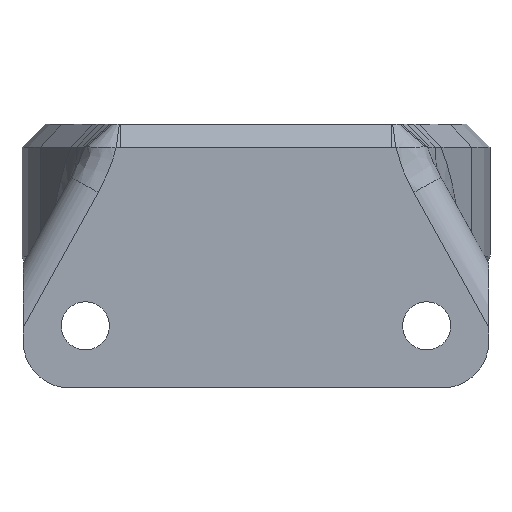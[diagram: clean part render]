
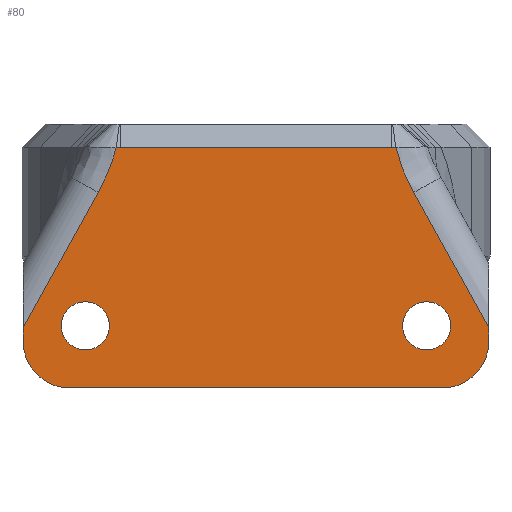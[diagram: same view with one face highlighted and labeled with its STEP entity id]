
A CAD part, front view. The second image highlights one B-rep face of the part: STEP entity #80.
In plain terms, the highlighted planar face has unit normal (0, -1, 0).
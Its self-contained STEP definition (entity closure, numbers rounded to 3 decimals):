
#80=ADVANCED_FACE('',(#483,#485,#487),#489,.T.);
#483=FACE_BOUND('',#484,.T.);
#484=EDGE_LOOP('',(#1257,#1258,#1259,#1260,#1261,#1262,#1263,#1264,#1265,#1266,#1267,
#1268));
#485=FACE_BOUND('',#486,.T.);
#486=EDGE_LOOP('',(#1269));
#487=FACE_BOUND('',#488,.T.);
#488=EDGE_LOOP('',(#1270));
#489=PLANE('',#490);
#490=AXIS2_PLACEMENT_3D('',#491,#492,#493);
#491=CARTESIAN_POINT('',(10.,-15.1,9.));
#492=DIRECTION('',(0.,-1.,0.));
#493=DIRECTION('',(-1.,0.,0.));
#1257=ORIENTED_EDGE('',*,*,#1522,.F.);
#1258=ORIENTED_EDGE('',*,*,#1524,.F.);
#1259=ORIENTED_EDGE('',*,*,#1525,.F.);
#1260=ORIENTED_EDGE('',*,*,#1485,.F.);
#1261=ORIENTED_EDGE('',*,*,#1490,.F.);
#1262=ORIENTED_EDGE('',*,*,#1526,.F.);
#1263=ORIENTED_EDGE('',*,*,#1527,.F.);
#1264=ORIENTED_EDGE('',*,*,#1528,.F.);
#1265=ORIENTED_EDGE('',*,*,#1529,.F.);
#1266=ORIENTED_EDGE('',*,*,#1530,.F.);
#1267=ORIENTED_EDGE('',*,*,#1531,.F.);
#1268=ORIENTED_EDGE('',*,*,#1532,.T.);
#1269=ORIENTED_EDGE('',*,*,#1533,.T.);
#1270=ORIENTED_EDGE('',*,*,#1534,.T.);
#1485=EDGE_CURVE('',#1670,#1672,#1673,.T.);
#1490=EDGE_CURVE('',#1679,#1670,#1681,.T.);
#1522=EDGE_CURVE('',#1731,#1733,#1734,.T.);
#1524=EDGE_CURVE('',#1736,#1731,#1737,.T.);
#1525=EDGE_CURVE('',#1672,#1736,#1738,.T.);
#1526=EDGE_CURVE('',#1739,#1679,#1740,.T.);
#1527=EDGE_CURVE('',#1741,#1739,#1742,.T.);
#1528=EDGE_CURVE('',#1743,#1741,#1744,.T.);
#1529=EDGE_CURVE('',#1745,#1743,#1746,.T.);
#1530=EDGE_CURVE('',#1747,#1745,#1748,.T.);
#1531=EDGE_CURVE('',#1749,#1747,#1750,.T.);
#1532=EDGE_CURVE('',#1749,#1733,#1751,.T.);
#1533=EDGE_CURVE('',#1752,#1752,#1753,.T.);
#1534=EDGE_CURVE('',#1754,#1754,#1755,.T.);
#1670=VERTEX_POINT('',#2445);
#1672=VERTEX_POINT('',#2450);
#1673=LINE('',#2451,#2452);
#1679=VERTEX_POINT('',#2465);
#1681=LINE('',#2470,#2471);
#1731=VERTEX_POINT('',#2692);
#1733=VERTEX_POINT('',#2696);
#1734=CIRCLE('',#2697,3.);
#1736=VERTEX_POINT('',#2704);
#1737=LINE('',#2705,#2706);
#1738=CIRCLE('',#2708,3.);
#1739=VERTEX_POINT('',#2712);
#1740=B_SPLINE_CURVE_WITH_KNOTS('',3,
(#2713,#2714,#2715,#2716,#2717,#2718,#2719,#2720,#2721,#2722),
.UNSPECIFIED.,.F.,.F.,
(4,2,2,2,4),
(0.,0.299,0.59,0.876,1.),
.UNSPECIFIED.);
#1741=VERTEX_POINT('',#2723);
#1742=B_SPLINE_CURVE_WITH_KNOTS('',3,
(#2724,#2725,#2726,#2727,#2728,#2729),
.UNSPECIFIED.,.F.,.F.,
(4,2,4),
(0.,0.5,1.),
.UNSPECIFIED.);
#1743=VERTEX_POINT('',#2730);
#1744=LINE('',#2731,#2732);
#1745=VERTEX_POINT('',#2734);
#1746=B_SPLINE_CURVE_WITH_KNOTS('',3,
(#2735,#2736,#2737,#2738,#2739,#2740,#2741,#2742),
.UNSPECIFIED.,.F.,.F.,
(4,1,1,1,1,4),
(0.,0.25,0.5,0.663,0.75,1.),
.UNSPECIFIED.);
#1747=VERTEX_POINT('',#2743);
#1748=B_SPLINE_CURVE_WITH_KNOTS('',3,
(#2744,#2745,#2746,#2747,#2748,#2749,#2750,#2751,#2752,#2753),
.UNSPECIFIED.,.F.,.F.,
(4,2,2,2,4),
(0.,0.282,0.566,0.855,1.),
.UNSPECIFIED.);
#1749=VERTEX_POINT('',#2754);
#1750=LINE('',#2755,#2756);
#1751=LINE('',#2758,#2759);
#1752=VERTEX_POINT('',#2761);
#1753=CIRCLE('',#2762,1.55);
#1754=VERTEX_POINT('',#2766);
#1755=CIRCLE('',#2767,1.55);
#2445=CARTESIAN_POINT('',(15.,-15.1,-4.118));
#2450=CARTESIAN_POINT('',(15.,-15.1,-5.));
#2451=CARTESIAN_POINT('',(15.,-15.1,-4.118));
#2452=VECTOR('',#2453,1.);
#2453=DIRECTION('',(0.,0.,-1.));
#2465=CARTESIAN_POINT('',(10.159,-15.1,4.595));
#2470=CARTESIAN_POINT('',(10.159,-15.1,4.595));
#2471=VECTOR('',#2472,1.);
#2472=DIRECTION('',(0.486,0.,-0.874));
#2692=CARTESIAN_POINT('',(-12.,-15.1,-8.));
#2696=CARTESIAN_POINT('',(-15.,-15.1,-5.));
#2697=AXIS2_PLACEMENT_3D('',#2698,#2699,#2700);
#2698=CARTESIAN_POINT('',(-12.,-15.1,-5.));
#2699=DIRECTION('',(0.,1.,0.));
#2700=DIRECTION('',(0.,0.,-1.));
#2704=CARTESIAN_POINT('',(12.,-15.1,-8.));
#2705=CARTESIAN_POINT('',(12.,-15.1,-8.));
#2706=VECTOR('',#2707,1.);
#2707=DIRECTION('',(-1.,0.,0.));
#2708=AXIS2_PLACEMENT_3D('',#2709,#2710,#2711);
#2709=CARTESIAN_POINT('',(12.,-15.1,-5.));
#2710=DIRECTION('',(0.,1.,0.));
#2711=DIRECTION('',(1.,0.,0.));
#2712=CARTESIAN_POINT('',(9.004,-15.1,7.5));
#2713=CARTESIAN_POINT('',(9.004,-15.1,7.5));
#2714=CARTESIAN_POINT('',(9.086,-15.1,7.202));
#2715=CARTESIAN_POINT('',(9.167,-15.1,6.905));
#2716=CARTESIAN_POINT('',(9.363,-15.1,6.324));
#2717=CARTESIAN_POINT('',(9.472,-15.1,6.039));
#2718=CARTESIAN_POINT('',(9.708,-15.1,5.482));
#2719=CARTESIAN_POINT('',(9.836,-15.1,5.209));
#2720=CARTESIAN_POINT('',(10.034,-15.1,4.825));
#2721=CARTESIAN_POINT('',(10.097,-15.1,4.71));
#2722=CARTESIAN_POINT('',(10.159,-15.1,4.595));
#2723=CARTESIAN_POINT('',(8.734,-15.1,7.5));
#2724=CARTESIAN_POINT('',(8.734,-15.1,7.5));
#2725=CARTESIAN_POINT('',(8.779,-15.1,7.5));
#2726=CARTESIAN_POINT('',(8.824,-15.1,7.5));
#2727=CARTESIAN_POINT('',(8.914,-15.1,7.5));
#2728=CARTESIAN_POINT('',(8.959,-15.1,7.5));
#2729=CARTESIAN_POINT('',(9.004,-15.1,7.5));
#2730=CARTESIAN_POINT('',(-8.734,-15.1,7.5));
#2731=CARTESIAN_POINT('',(-8.734,-15.1,7.5));
#2732=VECTOR('',#2733,1.);
#2733=DIRECTION('',(1.,0.,0.));
#2734=CARTESIAN_POINT('',(-9.004,-15.1,7.5));
#2735=CARTESIAN_POINT('',(-9.004,-15.1,7.5));
#2736=CARTESIAN_POINT('',(-8.982,-15.1,7.5));
#2737=CARTESIAN_POINT('',(-8.936,-15.1,7.5));
#2738=CARTESIAN_POINT('',(-8.877,-15.1,7.5));
#2739=CARTESIAN_POINT('',(-8.832,-15.1,7.5));
#2740=CARTESIAN_POINT('',(-8.787,-15.1,7.5));
#2741=CARTESIAN_POINT('',(-8.757,-15.1,7.5));
#2742=CARTESIAN_POINT('',(-8.734,-15.1,7.5));
#2743=CARTESIAN_POINT('',(-10.159,-15.1,4.595));
#2744=CARTESIAN_POINT('',(-10.159,-15.1,4.595));
#2745=CARTESIAN_POINT('',(-10.02,-15.1,4.858));
#2746=CARTESIAN_POINT('',(-9.88,-15.1,5.12));
#2747=CARTESIAN_POINT('',(-9.629,-15.1,5.66));
#2748=CARTESIAN_POINT('',(-9.513,-15.1,5.936));
#2749=CARTESIAN_POINT('',(-9.302,-15.1,6.495));
#2750=CARTESIAN_POINT('',(-9.206,-15.1,6.78));
#2751=CARTESIAN_POINT('',(-9.08,-15.1,7.21));
#2752=CARTESIAN_POINT('',(-9.042,-15.1,7.355));
#2753=CARTESIAN_POINT('',(-9.004,-15.1,7.5));
#2754=CARTESIAN_POINT('',(-15.,-15.1,-4.118));
#2755=CARTESIAN_POINT('',(-15.,-15.1,-4.118));
#2756=VECTOR('',#2757,1.);
#2757=DIRECTION('',(0.486,0.,0.874));
#2758=CARTESIAN_POINT('',(-15.,-15.1,-4.118));
#2759=VECTOR('',#2760,1.);
#2760=DIRECTION('',(0.,0.,-1.));
#2761=CARTESIAN_POINT('',(-9.45,-15.1,-4.));
#2762=AXIS2_PLACEMENT_3D('',#2763,#2764,#2765);
#2763=CARTESIAN_POINT('',(-11.,-15.1,-4.));
#2764=DIRECTION('',(0.,1.,0.));
#2765=DIRECTION('',(1.,0.,0.));
#2766=CARTESIAN_POINT('',(12.55,-15.1,-4.));
#2767=AXIS2_PLACEMENT_3D('',#2768,#2769,#2770);
#2768=CARTESIAN_POINT('',(11.,-15.1,-4.));
#2769=DIRECTION('',(0.,1.,0.));
#2770=DIRECTION('',(1.,0.,0.));
